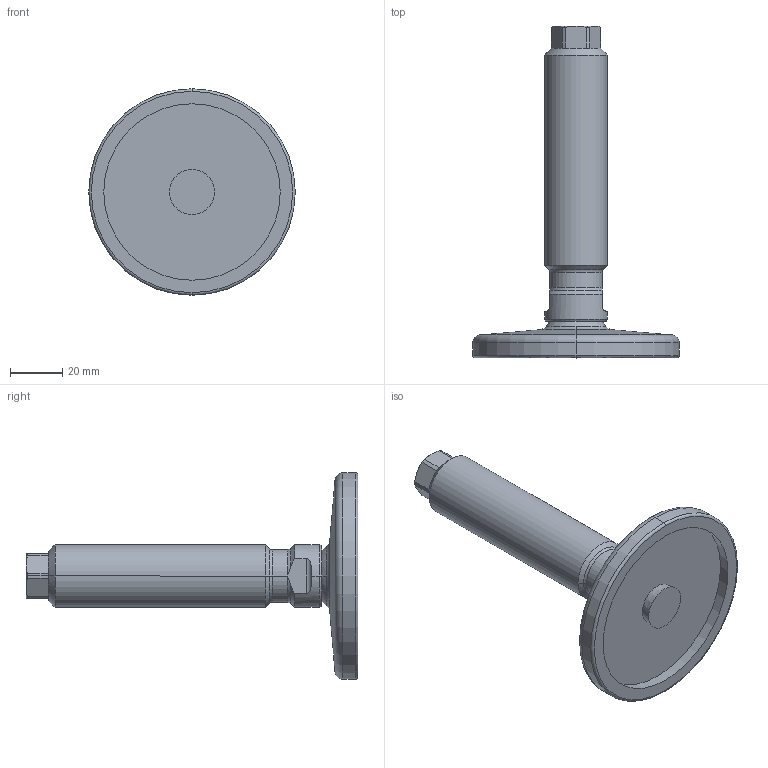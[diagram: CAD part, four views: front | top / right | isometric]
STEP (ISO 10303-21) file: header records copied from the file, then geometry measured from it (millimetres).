
FILE_DESCRIPTION (( 'STEP AP214' ), '1' );
FILE_NAME ('21-80-M24-100-D0-V.step', '2020-10-02T17:35:56', ( '' ), ( '' ), 'SwSTEP 2.0', 'SolidWorks 2019', '' );
FILE_SCHEMA (( 'AUTOMOTIVE_DESIGN' ));
Length unit declared in the file: millimetre
Products named in the file (3): WB21_Spindel_V^WB21_V_M24-100; 21-80-M24-100-D0-V; WB21_Fußteller 21^WB21_V_D0-080-R14-B9 (M24)
Assembly tree (2 placements, depth 2):
  21-80-M24-100-D0-V
    WB21_Fußteller 21^WB21_V_D0-080-R14-B9 (M24)
    WB21_Spindel_V^WB21_V_M24-100
Bounding box: 79 x 126.9 x 79 mm (x, y, z)
Volume: 80015.5 mm3; surface area: 22315.5 mm2
Topology: 2 solids, 2 shells, 79 faces, 177 edges, 105 vertices
Faces by surface type: cylinder 23, cone 21, plane 21, torus 10, sphere 4
Entity records: 2446 total; most frequent: CARTESIAN_POINT 530, DIRECTION 406, ORIENTED_EDGE 354, EDGE_CURVE 177, AXIS2_PLACEMENT_3D 173, VERTEX_POINT 105, CIRCLE 89, EDGE_LOOP 82
